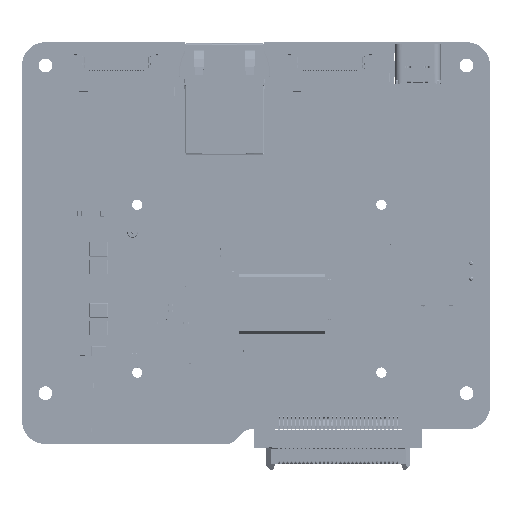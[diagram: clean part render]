
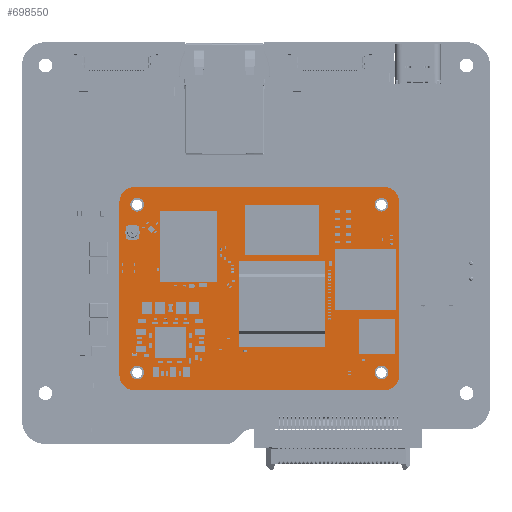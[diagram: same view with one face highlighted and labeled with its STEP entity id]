
A CAD part, top view. The second image highlights one B-rep face of the part: STEP entity #698550.
In plain terms, the highlighted planar face has unit normal (0, 0, 1).
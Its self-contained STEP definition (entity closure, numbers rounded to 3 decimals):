
#698386 = EDGE_CURVE('',#698387,#698389,#698391,.T.);
#698387 = VERTEX_POINT('',#698388);
#698388 = CARTESIAN_POINT('',(4.85,3.5,1.076));
#698389 = VERTEX_POINT('',#698390);
#698390 = CARTESIAN_POINT('',(2.15,3.5,1.076));
#698391 = CIRCLE('',#698392,1.35);
#698392 = AXIS2_PLACEMENT_3D('',#698393,#698394,#698395);
#698393 = CARTESIAN_POINT('',(3.5,3.5,1.076));
#698394 = DIRECTION('',(0.,0.,1.));
#698395 = DIRECTION('',(-1.,0.,0.));
#698428 = EDGE_CURVE('',#698429,#698431,#698433,.T.);
#698429 = VERTEX_POINT('',#698430);
#698430 = CARTESIAN_POINT('',(52.85,3.5,1.076));
#698431 = VERTEX_POINT('',#698432);
#698432 = CARTESIAN_POINT('',(50.15,3.5,1.076));
#698433 = CIRCLE('',#698434,1.35);
#698434 = AXIS2_PLACEMENT_3D('',#698435,#698436,#698437);
#698435 = CARTESIAN_POINT('',(51.5,3.5,1.076));
#698436 = DIRECTION('',(0.,0.,1.));
#698437 = DIRECTION('',(-1.,0.,0.));
#698470 = EDGE_CURVE('',#698471,#698473,#698475,.T.);
#698471 = VERTEX_POINT('',#698472);
#698472 = CARTESIAN_POINT('',(4.85,36.5,1.076));
#698473 = VERTEX_POINT('',#698474);
#698474 = CARTESIAN_POINT('',(2.15,36.5,1.076));
#698475 = CIRCLE('',#698476,1.35);
#698476 = AXIS2_PLACEMENT_3D('',#698477,#698478,#698479);
#698477 = CARTESIAN_POINT('',(3.5,36.5,1.076));
#698478 = DIRECTION('',(0.,0.,1.));
#698479 = DIRECTION('',(-1.,0.,0.));
#698512 = EDGE_CURVE('',#698513,#698515,#698517,.T.);
#698513 = VERTEX_POINT('',#698514);
#698514 = CARTESIAN_POINT('',(52.85,36.5,1.076));
#698515 = VERTEX_POINT('',#698516);
#698516 = CARTESIAN_POINT('',(50.15,36.5,1.076));
#698517 = CIRCLE('',#698518,1.35);
#698518 = AXIS2_PLACEMENT_3D('',#698519,#698520,#698521);
#698519 = CARTESIAN_POINT('',(51.5,36.5,1.076));
#698520 = DIRECTION('',(0.,0.,1.));
#698521 = DIRECTION('',(-1.,0.,0.));
#698550 = ADVANCED_FACE('',(#698551,#698621,#698631,#698641,#698651),
  #698661,.T.);
#698551 = FACE_BOUND('',#698552,.T.);
#698552 = EDGE_LOOP('',(#698553,#698563,#698572,#698580,#698589,#698597,
    #698606,#698614));
#698553 = ORIENTED_EDGE('',*,*,#698554,.T.);
#698554 = EDGE_CURVE('',#698555,#698557,#698559,.T.);
#698555 = VERTEX_POINT('',#698556);
#698556 = CARTESIAN_POINT('',(52.,40.,1.076));
#698557 = VERTEX_POINT('',#698558);
#698558 = CARTESIAN_POINT('',(3.,40.,1.076));
#698559 = LINE('',#698560,#698561);
#698560 = CARTESIAN_POINT('',(27.5,40.,1.076));
#698561 = VECTOR('',#698562,1.);
#698562 = DIRECTION('',(-1.,0.,0.));
#698563 = ORIENTED_EDGE('',*,*,#698564,.T.);
#698564 = EDGE_CURVE('',#698557,#698565,#698567,.T.);
#698565 = VERTEX_POINT('',#698566);
#698566 = CARTESIAN_POINT('',(0.,37.,1.076));
#698567 = CIRCLE('',#698568,3.);
#698568 = AXIS2_PLACEMENT_3D('',#698569,#698570,#698571);
#698569 = CARTESIAN_POINT('',(3.,37.,1.076));
#698570 = DIRECTION('',(0.,-0.,1.));
#698571 = DIRECTION('',(0.,1.,0.));
#698572 = ORIENTED_EDGE('',*,*,#698573,.T.);
#698573 = EDGE_CURVE('',#698565,#698574,#698576,.T.);
#698574 = VERTEX_POINT('',#698575);
#698575 = CARTESIAN_POINT('',(0.,3.,1.076));
#698576 = LINE('',#698577,#698578);
#698577 = CARTESIAN_POINT('',(0.,20.,1.076));
#698578 = VECTOR('',#698579,1.);
#698579 = DIRECTION('',(0.,-1.,0.));
#698580 = ORIENTED_EDGE('',*,*,#698581,.T.);
#698581 = EDGE_CURVE('',#698574,#698582,#698584,.T.);
#698582 = VERTEX_POINT('',#698583);
#698583 = CARTESIAN_POINT('',(3.,0.,1.076));
#698584 = CIRCLE('',#698585,3.);
#698585 = AXIS2_PLACEMENT_3D('',#698586,#698587,#698588);
#698586 = CARTESIAN_POINT('',(3.,3.,1.076));
#698587 = DIRECTION('',(0.,0.,1.));
#698588 = DIRECTION('',(-1.,0.,0.));
#698589 = ORIENTED_EDGE('',*,*,#698590,.T.);
#698590 = EDGE_CURVE('',#698582,#698591,#698593,.T.);
#698591 = VERTEX_POINT('',#698592);
#698592 = CARTESIAN_POINT('',(52.,0.,1.076));
#698593 = LINE('',#698594,#698595);
#698594 = CARTESIAN_POINT('',(27.5,0.,1.076));
#698595 = VECTOR('',#698596,1.);
#698596 = DIRECTION('',(1.,0.,0.));
#698597 = ORIENTED_EDGE('',*,*,#698598,.T.);
#698598 = EDGE_CURVE('',#698591,#698599,#698601,.T.);
#698599 = VERTEX_POINT('',#698600);
#698600 = CARTESIAN_POINT('',(55.,3.,1.076));
#698601 = CIRCLE('',#698602,3.);
#698602 = AXIS2_PLACEMENT_3D('',#698603,#698604,#698605);
#698603 = CARTESIAN_POINT('',(52.,3.,1.076));
#698604 = DIRECTION('',(0.,0.,1.));
#698605 = DIRECTION('',(0.,-1.,0.));
#698606 = ORIENTED_EDGE('',*,*,#698607,.T.);
#698607 = EDGE_CURVE('',#698599,#698608,#698610,.T.);
#698608 = VERTEX_POINT('',#698609);
#698609 = CARTESIAN_POINT('',(55.,37.,1.076));
#698610 = LINE('',#698611,#698612);
#698611 = CARTESIAN_POINT('',(55.,20.,1.076));
#698612 = VECTOR('',#698613,1.);
#698613 = DIRECTION('',(0.,1.,0.));
#698614 = ORIENTED_EDGE('',*,*,#698615,.T.);
#698615 = EDGE_CURVE('',#698608,#698555,#698616,.T.);
#698616 = CIRCLE('',#698617,3.);
#698617 = AXIS2_PLACEMENT_3D('',#698618,#698619,#698620);
#698618 = CARTESIAN_POINT('',(52.,37.,1.076));
#698619 = DIRECTION('',(0.,0.,1.));
#698620 = DIRECTION('',(1.,0.,-0.));
#698621 = FACE_BOUND('',#698622,.T.);
#698622 = EDGE_LOOP('',(#698623,#698630));
#698623 = ORIENTED_EDGE('',*,*,#698624,.F.);
#698624 = EDGE_CURVE('',#698389,#698387,#698625,.T.);
#698625 = CIRCLE('',#698626,1.35);
#698626 = AXIS2_PLACEMENT_3D('',#698627,#698628,#698629);
#698627 = CARTESIAN_POINT('',(3.5,3.5,1.076));
#698628 = DIRECTION('',(0.,0.,1.));
#698629 = DIRECTION('',(-1.,0.,0.));
#698630 = ORIENTED_EDGE('',*,*,#698386,.F.);
#698631 = FACE_BOUND('',#698632,.T.);
#698632 = EDGE_LOOP('',(#698633,#698640));
#698633 = ORIENTED_EDGE('',*,*,#698634,.F.);
#698634 = EDGE_CURVE('',#698431,#698429,#698635,.T.);
#698635 = CIRCLE('',#698636,1.35);
#698636 = AXIS2_PLACEMENT_3D('',#698637,#698638,#698639);
#698637 = CARTESIAN_POINT('',(51.5,3.5,1.076));
#698638 = DIRECTION('',(0.,0.,1.));
#698639 = DIRECTION('',(-1.,0.,0.));
#698640 = ORIENTED_EDGE('',*,*,#698428,.F.);
#698641 = FACE_BOUND('',#698642,.T.);
#698642 = EDGE_LOOP('',(#698643,#698650));
#698643 = ORIENTED_EDGE('',*,*,#698644,.F.);
#698644 = EDGE_CURVE('',#698473,#698471,#698645,.T.);
#698645 = CIRCLE('',#698646,1.35);
#698646 = AXIS2_PLACEMENT_3D('',#698647,#698648,#698649);
#698647 = CARTESIAN_POINT('',(3.5,36.5,1.076));
#698648 = DIRECTION('',(0.,0.,1.));
#698649 = DIRECTION('',(-1.,0.,0.));
#698650 = ORIENTED_EDGE('',*,*,#698470,.F.);
#698651 = FACE_BOUND('',#698652,.T.);
#698652 = EDGE_LOOP('',(#698653,#698660));
#698653 = ORIENTED_EDGE('',*,*,#698654,.F.);
#698654 = EDGE_CURVE('',#698515,#698513,#698655,.T.);
#698655 = CIRCLE('',#698656,1.35);
#698656 = AXIS2_PLACEMENT_3D('',#698657,#698658,#698659);
#698657 = CARTESIAN_POINT('',(51.5,36.5,1.076));
#698658 = DIRECTION('',(0.,0.,1.));
#698659 = DIRECTION('',(-1.,0.,0.));
#698660 = ORIENTED_EDGE('',*,*,#698512,.F.);
#698661 = PLANE('',#698662);
#698662 = AXIS2_PLACEMENT_3D('',#698663,#698664,#698665);
#698663 = CARTESIAN_POINT('',(27.5,20.,1.076));
#698664 = DIRECTION('',(0.,0.,1.));
#698665 = DIRECTION('',(1.,0.,-0.));
